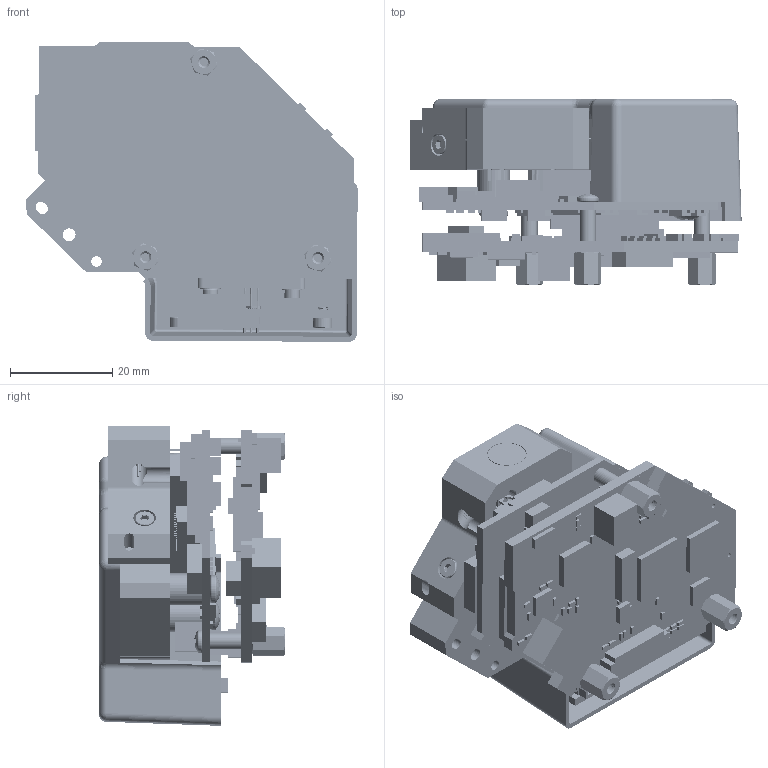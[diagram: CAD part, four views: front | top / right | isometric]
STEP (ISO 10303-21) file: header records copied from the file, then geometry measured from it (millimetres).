
FILE_DESCRIPTION (( 'STEP AP214' ), '1' );
FILE_NAME ('2513874.STEP', '2015-09-03T18:39:56', ( '' ), ( '' ), 'SwSTEP 2.0', 'SolidWorks 2012', '' );
FILE_SCHEMA (( 'AUTOMOTIVE_DESIGN' ));
Length unit declared in the file: millimetre
Products named in the file (68): 2513885; PHOTO DIODE; ILLUMINATION LAMP; SAPPHIRE WINDOW - 7.5mm DIA; LENS, LIGHTPATH 354171; 2513929; 2513871; STANDOFF 2-56 X .25 LG X .187 HEX MF_93505A211; TIDLP-23328-01 - TIVA; TIDLP-23327-01-DLPC150; STANDOFF 2-56 X .25 LG X .125 DIA_91125A010; SCREW, 2-56 x .5_32in, PHP, SS_91772A073; TIDLP-23327-01 - DLPC150; 2513923; SCREW, 4-40 x..375LG, SHCS, BLK, ALLOY STEEL_91251A108; SCREW, 4-40 x.188LG, PHP, ZINC ST_90272A105; SCREW, M2 x 0.4 X 6LG SHCS, BLK, ALLOY STEEL_91290A013; WASHER, M1.6 x 4MM OD, SS_93475A190; SCREW, M1.6X0.35 X 5LG SHCS, BLK, ALLOY STEEL_91290A022; DMD, .2 TRP WVGA NEAR IR; CERAMIC - DMD, .2 TRP WVGA NEAR IR; WINDOW - DMD, .2 TRP WVGA NEAR IR; STANDOFF 4-40 X .25LG - ROUND_93265A431; 2513937; 2141385; MILL-MAX SOCKET, 8637-0-15-15-21-27-10-0; JST - SHR-14V-S; JST - SM14B-SRSS-TB; INFRARED THERMOPILE SENSOR, TI-TMP006; CHIP - OPA350; CHIP - REF5025; CHIP - OPA23; CHIP - XTAL; CHIP - DISCRETES; CHIP - ADS1255; 2141384; DETECTOR, MTPD1346-100; 2141381; CONNECTOR - 30RF-JMCS-G-1B-TF; CONNECTOR - 30PS-JMCS-G-1B-TF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
Assembly tree (94 placements, depth 6):
  -------RAYS -
  2513874
    2513871
      2513880
        2513920
          2513920
          DOWEL PIN, 1MM DIA X 4MM LG, SS_93600A030  x2
          DOWEL PIN 1MM DIA X 6MM LG  x2
          DOWEL PIN, 2MM DIA X 4MM LG, SS_91585A912  x2
        2513894
        2513895
        2513881
          2513907
            2513907
            DOWEL PIN, 1MM DIA X 3MM LG_91585A901  x2
          2513900
          2513906
          SCREW M1x.25 X 3MM SLOT CHEESE_91800A052  x2
        WAVE SPRING
        2513905
        2513911
        2513912
        2513913  x2
        2513915
        2513916
        SCREW, M1.6X0.35 X 3LG PHP, SS_92000A001  x2
        SCREW, M1.6X0.35 X 8LG SHCS, BLK, ALLOY STEEL_91290A041  x2
      2141381
        2141380
        Panasonic axt540124
        CONNECTOR - 30PS-JMCS-G-1B-TF
        CONNECTOR - 30RF-JMCS-G-1B-TF
      2141385
        DETECTOR, MTPD1346-100
        2141384
        CHIP - ADS1255
        CHIP - DISCRETES
        CHIP - XTAL
        CHIP - OPA23
        CHIP - REF5025
        CHIP - OPA350
        INFRARED THERMOPILE SENSOR, TI-TMP006
        JST - SM14B-SRSS-TB
        JST - SHR-14V-S
        MILL-MAX SOCKET, 8637-0-15-15-21-27-10-0  x3
      2513937
      STANDOFF 4-40 X .25LG - ROUND_93265A431  x2
      DMD, .2 TRP WVGA NEAR IR
        WINDOW - DMD, .2 TRP WVGA NEAR IR
        CERAMIC - DMD, .2 TRP WVGA NEAR IR
      SCREW, M1.6X0.35 X 5LG SHCS, BLK, ALLOY STEEL_91290A022  x4
      WASHER, M1.6 x 4MM OD, SS_93475A190  x2
      SCREW, M2 x 0.4 X 6LG SHCS, BLK, ALLOY STEEL_91290A013  x4
      SCREW, 4-40 x.188LG, PHP, ZINC ST_90272A105  x2
      SCREW, 4-40 x..375LG, SHCS, BLK, ALLOY STEEL_91251A108  x2
      2513923
      TIDLP-23327-01-DLPC150
        TIDLP-23327-01 - DLPC150
        SCREW, 2-56 x .5_32in, PHP, SS_91772A073  x3
        STANDOFF 2-56 X .25 LG X .125 DIA_91125A010  x3
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Bounding box: 64.75 x 36.33 x 58.59 mm (x, y, z)
Volume: 38065.9 mm3; surface area: 50341.3 mm2
Topology: 424 solids, 424 shells, 8645 faces, 21950 edges, 14442 vertices
Faces by surface type: plane 5164, cylinder 2415, bspline 485, cone 461, sphere 72, torus 48
Entity records: 273117 total; most frequent: CARTESIAN_POINT 80386, ORIENTED_EDGE 35174, DIRECTION 30592, EDGE_CURVE 17587, VECTOR 13240, LINE 13240, VERTEX_POINT 11643, AXIS2_PLACEMENT_3D 8676
